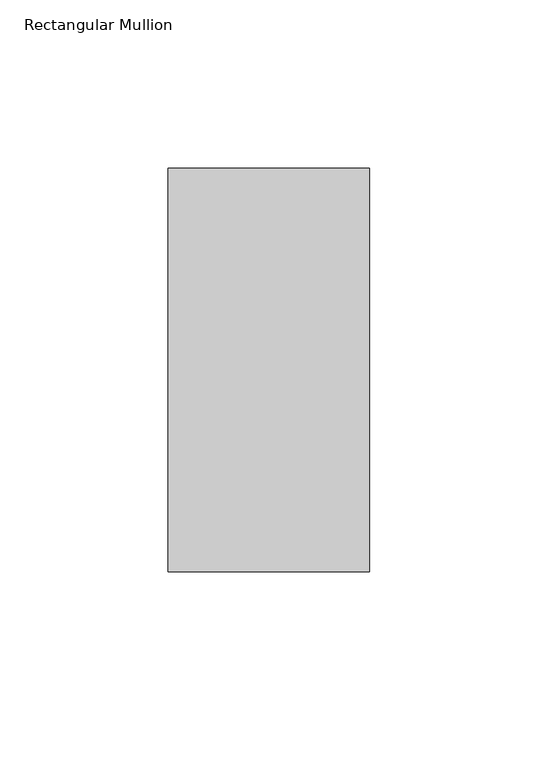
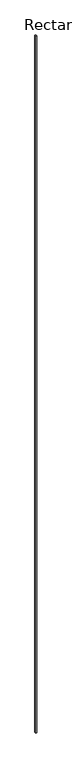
"""IFC4 building model written with IfcOpenShell, lengths in millimetres: member geometry, Rectangular Mullion : Terça."""

from ifc_helpers import new_model, si_unit, frame, origin, place, context, project, spatial, polyline, outline, extrude, source, transform, mapped, element, save


def rectangular_mullion_ffaf8763(model_context):
    return source(origin(), model_context, "Body", "SweptSolid", [
        extrude(outline(polyline([(-60.0, -120.0), (-60.0, 0.0), (0.0, 0.0), (0.0, -120.0), (-60.0, -120.0)])), frame((0.0, 0.0, -47920.4270994), z_axis=(0.0, 0.0, 1.0), x_axis=(1.0, 0.0, 0.0)), (0.0, 0.0, 1.0), 47920.4270994),
    ])


if __name__ == "__main__":
    model = new_model("IFC4")
    model_context = context("Model", 3, world=origin())
    ifc_project = project(units=[si_unit("LENGTHUNIT", "METRE", prefix="MILLI")], contexts=[model_context])
    site = spatial("IfcSite", under=ifc_project)
    building = spatial("IfcBuilding", under=site)
    placement = place(None, origin())
    rectangular_mullion_shape = rectangular_mullion_ffaf8763(model_context)
    element("IfcMember", 1, ObjectType="Rectangular Mullion : Terça", at=placement, inside=building, context=model_context, shape_type="MappedRepresentation", body=[
        mapped(rectangular_mullion_shape, transform((0.0, 0.0, 0.0), x_axis=(1.0, 0.0, 0.0), y_axis=(0.0, 1.0, 0.0), z_axis=(0.0, 0.0, 1.0))),
    ])
    save(model, "model.ifc")
